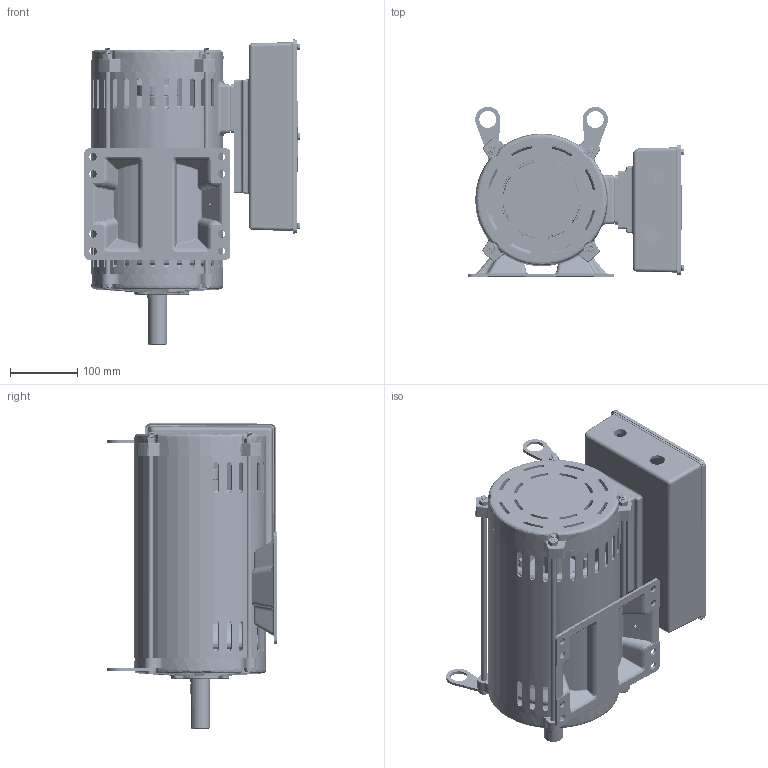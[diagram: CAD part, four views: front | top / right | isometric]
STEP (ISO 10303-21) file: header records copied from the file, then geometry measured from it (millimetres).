
FILE_DESCRIPTION (( 'STEP AP203' ), '1' );
FILE_NAME ('CDM-180T 3HP-4P 5HP-4P.STEP', '2025-01-11T01:12:54', ( 'User' ), ( 'China' ), 'SwSTEP 2.0', 'SolidWorks 2019', '' );
FILE_SCHEMA (( 'CONFIG_CONTROL_DESIGN' ));
Products named in the file (1): CDM-180T 3HP-4P 5HP-4P
Bounding box: 318.82 x 252.66 x 452.73 mm (x, y, z)
Volume: 7089213 mm3; surface area: 1584298 mm2
Topology: 46 solids, 48 shells, 3899 faces, 10264 edges, 6364 vertices
Faces by surface type: cylinder 1343, plane 1153, bspline 713, cone 554, torus 110, sphere 26
Entity records: 173948 total; most frequent: CARTESIAN_POINT 85717, ORIENTED_EDGE 20210, DIRECTION 16536, EDGE_CURVE 10105, VERTEX_POINT 6365, AXIS2_PLACEMENT_3D 6107, LINE 4322, VECTOR 4322
